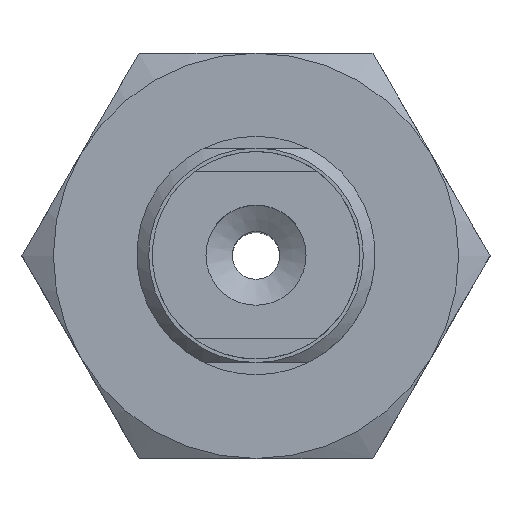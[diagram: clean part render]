
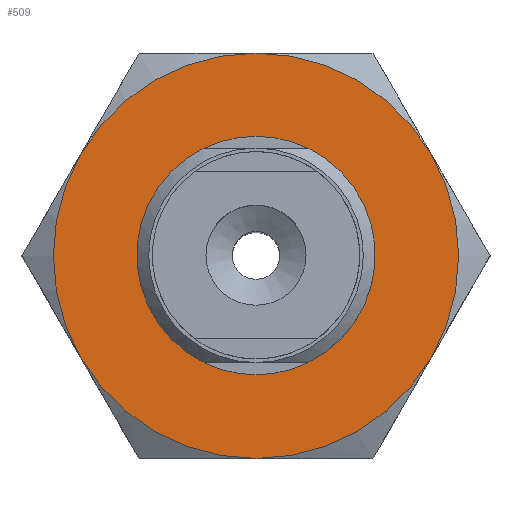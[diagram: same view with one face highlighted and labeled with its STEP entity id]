
A CAD part, top view. The second image highlights one B-rep face of the part: STEP entity #509.
In plain terms, the highlighted planar face has unit normal (0, 0, 1).
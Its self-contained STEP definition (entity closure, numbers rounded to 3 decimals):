
#509=ADVANCED_FACE('',(#702,#703),#704,.T.);
#702=FACE_BOUND('',#960,.T.);
#703=FACE_OUTER_BOUND('',#961,.T.);
#704=PLANE('',#962);
#960=EDGE_LOOP('',(#1510));
#961=EDGE_LOOP('',(#1511,#1512,#1513,#1514,#1515,#1516));
#962=AXIS2_PLACEMENT_3D('',#1517,#1518,#1519);
#1510=ORIENTED_EDGE('',*,*,#1842,.F.);
#1511=ORIENTED_EDGE('',*,*,#1847,.F.);
#1512=ORIENTED_EDGE('',*,*,#1849,.F.);
#1513=ORIENTED_EDGE('',*,*,#1828,.F.);
#1514=ORIENTED_EDGE('',*,*,#1823,.F.);
#1515=ORIENTED_EDGE('',*,*,#1851,.F.);
#1516=ORIENTED_EDGE('',*,*,#1848,.F.);
#1517=CARTESIAN_POINT('',(-9.815,-8.5,4.0));
#1518=DIRECTION('',(0.0,0.0,1.0));
#1519=DIRECTION('',(1.0,0.0,0.0));
#1823=EDGE_CURVE('',#2067,#2070,#2071,.T.);
#1828=EDGE_CURVE('',#2070,#2055,#2077,.T.);
#1842=EDGE_CURVE('',#2101,#2101,#2102,.T.);
#1847=EDGE_CURVE('',#2096,#2105,#2108,.T.);
#1848=EDGE_CURVE('',#2105,#2090,#2109,.T.);
#1849=EDGE_CURVE('',#2055,#2096,#2110,.T.);
#1851=EDGE_CURVE('',#2090,#2067,#2112,.T.);
#2055=VERTEX_POINT('',#2497);
#2067=VERTEX_POINT('',#2527);
#2070=VERTEX_POINT('',#2538);
#2071=CIRCLE('',#2539,8.5);
#2077=CIRCLE('',#2561,8.5);
#2090=VERTEX_POINT('',#2591);
#2096=VERTEX_POINT('',#2610);
#2101=VERTEX_POINT('',#2623);
#2102=CIRCLE('',#2624,4.5);
#2105=VERTEX_POINT('',#2631);
#2108=CIRCLE('',#2642,8.5);
#2109=CIRCLE('',#2643,8.5);
#2110=CIRCLE('',#2644,8.5);
#2112=CIRCLE('',#2646,8.5);
#2497=CARTESIAN_POINT('',(7.361,-4.25,4.0));
#2527=CARTESIAN_POINT('',(0.,8.5,4.0));
#2538=CARTESIAN_POINT('',(7.361,4.25,4.0));
#2539=AXIS2_PLACEMENT_3D('',#2893,#2894,#2895);
#2561=AXIS2_PLACEMENT_3D('',#2896,#2897,#2898);
#2591=CARTESIAN_POINT('',(-7.361,4.25,4.0));
#2610=CARTESIAN_POINT('',(0.,-8.5,4.0));
#2623=CARTESIAN_POINT('',(0.0,-4.5,4.0));
#2624=AXIS2_PLACEMENT_3D('',#2907,#2908,#2909);
#2631=CARTESIAN_POINT('',(-7.361,-4.25,4.0));
#2642=AXIS2_PLACEMENT_3D('',#2913,#2914,#2915);
#2643=AXIS2_PLACEMENT_3D('',#2916,#2917,#2918);
#2644=AXIS2_PLACEMENT_3D('',#2919,#2920,#2921);
#2646=AXIS2_PLACEMENT_3D('',#2925,#2926,#2927);
#2893=CARTESIAN_POINT('',(0.,0.,4.0));
#2894=DIRECTION('',(0.,0.,-1.0));
#2895=DIRECTION('',(0.866,0.5,0.));
#2896=CARTESIAN_POINT('',(0.,0.,4.0));
#2897=DIRECTION('',(0.,0.,-1.0));
#2898=DIRECTION('',(0.866,0.5,0.));
#2907=CARTESIAN_POINT('',(0.0,0.0,4.0));
#2908=DIRECTION('',(0.0,0.,1.0));
#2909=DIRECTION('',(0.0,-1.0,0.));
#2913=CARTESIAN_POINT('',(0.,0.,4.0));
#2914=DIRECTION('',(0.,0.,-1.0));
#2915=DIRECTION('',(0.866,0.5,0.));
#2916=CARTESIAN_POINT('',(0.,0.,4.0));
#2917=DIRECTION('',(0.,0.,-1.0));
#2918=DIRECTION('',(0.866,0.5,0.));
#2919=CARTESIAN_POINT('',(0.,0.,4.0));
#2920=DIRECTION('',(0.,0.,-1.0));
#2921=DIRECTION('',(0.866,0.5,0.));
#2925=CARTESIAN_POINT('',(0.,0.,4.0));
#2926=DIRECTION('',(0.,0.,-1.0));
#2927=DIRECTION('',(0.866,0.5,0.));
